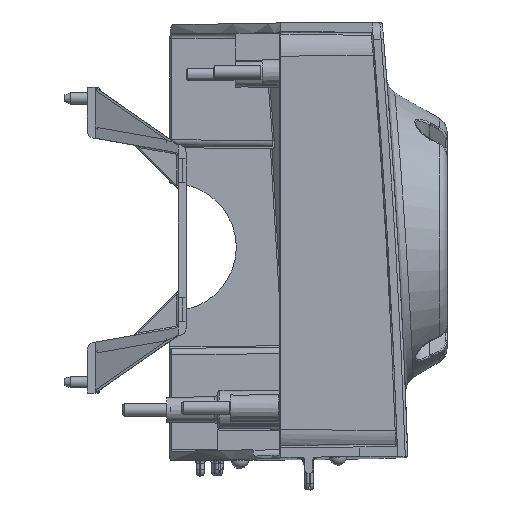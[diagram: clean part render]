
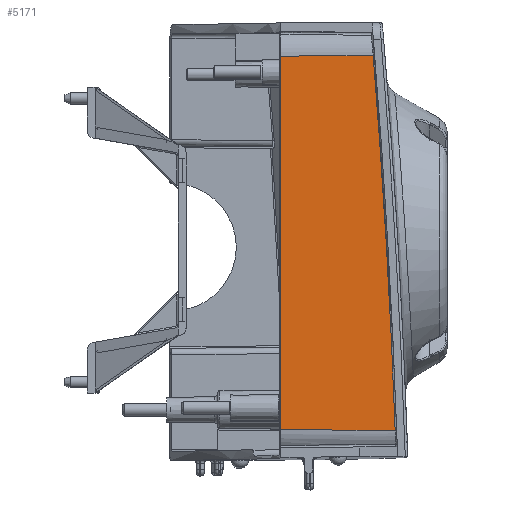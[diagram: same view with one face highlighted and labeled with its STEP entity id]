
A CAD part, top view. The second image highlights one B-rep face of the part: STEP entity #5171.
In plain terms, the highlighted planar face has unit normal (-0.009, 0, 1).
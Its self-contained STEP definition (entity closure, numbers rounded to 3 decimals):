
#5171=ADVANCED_FACE('',(#5738),#5509,.F.);
#5509=PLANE('',#13063);
#5738=FACE_OUTER_BOUND('',#6159,.T.);
#6159=EDGE_LOOP('',(#8097,#8098,#8099,#8100));
#6650=LINE('',#19595,#7147);
#6651=LINE('',#19599,#7148);
#6652=LINE('',#19601,#7149);
#7147=VECTOR('',#14365,1.);
#7148=VECTOR('',#14368,1.);
#7149=VECTOR('',#14369,1.);
#8097=ORIENTED_EDGE('',*,*,#11429,.T.);
#8098=ORIENTED_EDGE('',*,*,#11430,.T.);
#8099=ORIENTED_EDGE('',*,*,#11431,.F.);
#8100=ORIENTED_EDGE('',*,*,#11432,.F.);
#10113=VERTEX_POINT('',#19570);
#10117=VERTEX_POINT('',#19596);
#10118=VERTEX_POINT('',#19598);
#10119=VERTEX_POINT('',#19600);
#11429=EDGE_CURVE('',#10117,#10113,#6650,.T.);
#11430=EDGE_CURVE('',#10113,#10118,#12667,.T.);
#11431=EDGE_CURVE('',#10119,#10118,#6651,.T.);
#11432=EDGE_CURVE('',#10117,#10119,#6652,.T.);
#12667=ELLIPSE('',#13062,2704.215,2704.113);
#13062=AXIS2_PLACEMENT_3D('',#19597,#14366,#14367);
#13063=AXIS2_PLACEMENT_3D('',#19602,#14370,#14371);
#14365=DIRECTION('',(1.,-0.009,0.009));
#14366=DIRECTION('',(-0.009,0.,1.));
#14367=DIRECTION('',(-1.,0.,-0.009));
#14368=DIRECTION('',(1.,0.009,0.009));
#14369=DIRECTION('',(0.,1.,0.));
#14370=DIRECTION('',(0.009,0.,-1.));
#14371=DIRECTION('',(0.,-1.,0.));
#19570=CARTESIAN_POINT('',(-115.586,272.524,489.554));
#19595=CARTESIAN_POINT('',(-151.597,272.839,489.24));
#19596=CARTESIAN_POINT('',(-151.597,272.839,489.24));
#19597=CARTESIAN_POINT('',(-2817.867,173.039,465.972));
#19598=CARTESIAN_POINT('',(-122.517,390.543,489.494));
#19599=CARTESIAN_POINT('',(-151.597,390.289,489.24));
#19600=CARTESIAN_POINT('',(-151.597,390.289,489.24));
#19601=CARTESIAN_POINT('',(-151.597,401.049,489.24));
#19602=CARTESIAN_POINT('',(-151.597,263.853,489.24));
